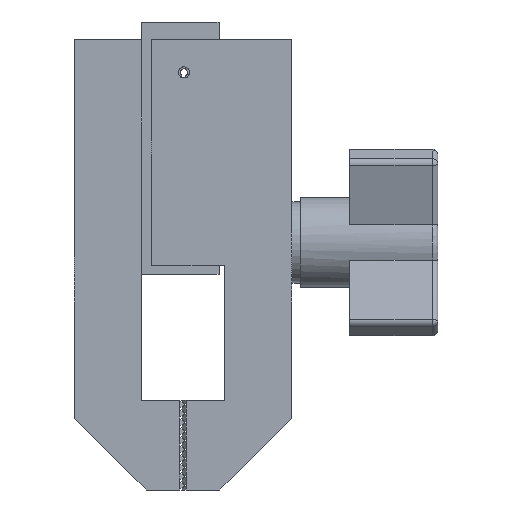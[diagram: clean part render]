
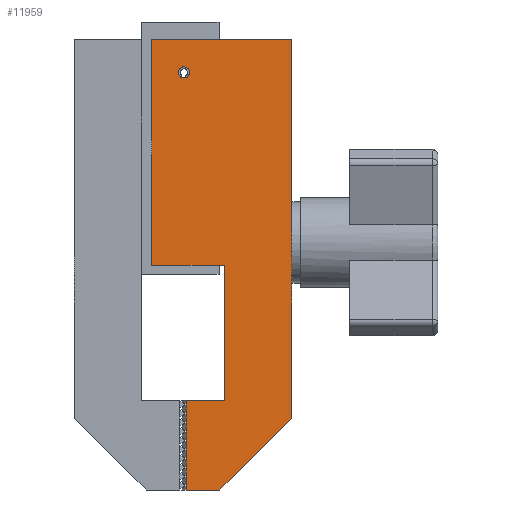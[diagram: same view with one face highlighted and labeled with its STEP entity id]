
A CAD part, left-side view. The second image highlights one B-rep face of the part: STEP entity #11959.
In plain terms, the highlighted planar face has unit normal (-1, 0, 0).
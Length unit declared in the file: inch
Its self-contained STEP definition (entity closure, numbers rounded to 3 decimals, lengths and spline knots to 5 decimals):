
#4176=CARTESIAN_POINT('',(28.80032,-8.46708,-16.358));
#4177=VERTEX_POINT('',#4176);
#4194=CARTESIAN_POINT('',(28.80032,-8.46708,-14.258));
#4195=VERTEX_POINT('',#4194);
#4202=CARTESIAN_POINT('',(28.80032,-8.46708,-14.258));
#4203=DIRECTION('',(0.0,0.0,-1.0));
#4204=VECTOR('',#4203,2.1);
#4205=LINE('',#4202,#4204);
#4206=EDGE_CURVE('',#4195,#4177,#4205,.T.);
#10777=CARTESIAN_POINT('',(28.80032,-7.87458,-14.46808));
#10778=VERTEX_POINT('',#10777);
#10786=CARTESIAN_POINT('',(28.80032,-7.85458,-14.46637));
#10787=VERTEX_POINT('',#10786);
#10794=CARTESIAN_POINT('',(28.80032,-7.86708,-14.438));
#10795=DIRECTION('',(1.0,0.0,0.0));
#10796=DIRECTION('',(0.0,0.0,-1.0));
#10797=AXIS2_PLACEMENT_3D('',#10794,#10795,#10796);
#10798=CIRCLE('',#10797,0.031);
#10799=EDGE_CURVE('',#10778,#10787,#10798,.T.);
#10831=CARTESIAN_POINT('',(28.80032,-7.87908,-16.258));
#10832=VERTEX_POINT('',#10831);
#10839=CARTESIAN_POINT('',(28.80032,-7.87908,-16.283));
#10840=VERTEX_POINT('',#10839);
#10847=CARTESIAN_POINT('',(28.80032,-7.87908,-16.258));
#10848=DIRECTION('',(0.0,0.0,-1.0));
#10849=VECTOR('',#10848,0.025);
#10850=LINE('',#10847,#10849);
#10851=EDGE_CURVE('',#10832,#10840,#10850,.T.);
#10861=CARTESIAN_POINT('',(28.80032,-7.87908,-16.333));
#10862=VERTEX_POINT('',#10861);
#10871=CARTESIAN_POINT('',(28.80032,-7.87908,-16.283));
#10872=DIRECTION('',(0.0,0.0,-1.0));
#10873=VECTOR('',#10872,0.05);
#10874=LINE('',#10871,#10873);
#10875=EDGE_CURVE('',#10840,#10862,#10874,.T.);
#10891=CARTESIAN_POINT('',(28.80032,-7.87908,-16.383));
#10892=VERTEX_POINT('',#10891);
#10901=CARTESIAN_POINT('',(28.80032,-7.87908,-16.333));
#10902=DIRECTION('',(0.0,0.0,-1.0));
#10903=VECTOR('',#10902,0.05);
#10904=LINE('',#10901,#10903);
#10905=EDGE_CURVE('',#10862,#10892,#10904,.T.);
#10921=CARTESIAN_POINT('',(28.80032,-7.87908,-16.433));
#10922=VERTEX_POINT('',#10921);
#10931=CARTESIAN_POINT('',(28.80032,-7.87908,-16.383));
#10932=DIRECTION('',(0.0,0.0,-1.0));
#10933=VECTOR('',#10932,0.05);
#10934=LINE('',#10931,#10933);
#10935=EDGE_CURVE('',#10892,#10922,#10934,.T.);
#10951=CARTESIAN_POINT('',(28.80032,-7.87908,-16.483));
#10952=VERTEX_POINT('',#10951);
#10961=CARTESIAN_POINT('',(28.80032,-7.87908,-16.433));
#10962=DIRECTION('',(0.0,0.0,-1.0));
#10963=VECTOR('',#10962,0.05);
#10964=LINE('',#10961,#10963);
#10965=EDGE_CURVE('',#10922,#10952,#10964,.T.);
#10981=CARTESIAN_POINT('',(28.80032,-7.87908,-16.533));
#10982=VERTEX_POINT('',#10981);
#10991=CARTESIAN_POINT('',(28.80032,-7.87908,-16.483));
#10992=DIRECTION('',(0.0,0.0,-1.0));
#10993=VECTOR('',#10992,0.05);
#10994=LINE('',#10991,#10993);
#10995=EDGE_CURVE('',#10952,#10982,#10994,.T.);
#11011=CARTESIAN_POINT('',(28.80032,-7.87908,-16.583));
#11012=VERTEX_POINT('',#11011);
#11021=CARTESIAN_POINT('',(28.80032,-7.87908,-16.533));
#11022=DIRECTION('',(0.0,0.0,-1.0));
#11023=VECTOR('',#11022,0.05);
#11024=LINE('',#11021,#11023);
#11025=EDGE_CURVE('',#10982,#11012,#11024,.T.);
#11041=CARTESIAN_POINT('',(28.80032,-7.87908,-16.633));
#11042=VERTEX_POINT('',#11041);
#11051=CARTESIAN_POINT('',(28.80032,-7.87908,-16.583));
#11052=DIRECTION('',(0.0,0.0,-1.0));
#11053=VECTOR('',#11052,0.05);
#11054=LINE('',#11051,#11053);
#11055=EDGE_CURVE('',#11012,#11042,#11054,.T.);
#11071=CARTESIAN_POINT('',(28.80032,-7.87908,-16.683));
#11072=VERTEX_POINT('',#11071);
#11081=CARTESIAN_POINT('',(28.80032,-7.87908,-16.633));
#11082=DIRECTION('',(0.0,0.0,-1.0));
#11083=VECTOR('',#11082,0.05);
#11084=LINE('',#11081,#11083);
#11085=EDGE_CURVE('',#11042,#11072,#11084,.T.);
#11101=CARTESIAN_POINT('',(28.80032,-7.87908,-16.733));
#11102=VERTEX_POINT('',#11101);
#11111=CARTESIAN_POINT('',(28.80032,-7.87908,-16.683));
#11112=DIRECTION('',(0.0,0.0,-1.0));
#11113=VECTOR('',#11112,0.05);
#11114=LINE('',#11111,#11113);
#11115=EDGE_CURVE('',#11072,#11102,#11114,.T.);
#11139=CARTESIAN_POINT('',(28.80032,-7.87908,-16.758));
#11140=VERTEX_POINT('',#11139);
#11147=CARTESIAN_POINT('',(28.80032,-7.87908,-16.733));
#11148=DIRECTION('',(0.0,0.0,-1.0));
#11149=VECTOR('',#11148,0.025);
#11150=LINE('',#11147,#11149);
#11151=EDGE_CURVE('',#11102,#11140,#11150,.T.);
#11761=CARTESIAN_POINT('',(28.80032,-8.06708,-16.758));
#11762=VERTEX_POINT('',#11761);
#11763=CARTESIAN_POINT('',(28.80032,-8.06708,-16.758));
#11764=DIRECTION('',(0.0,-0.707,0.707));
#11765=VECTOR('',#11764,0.56569);
#11766=LINE('',#11763,#11765);
#11767=EDGE_CURVE('',#11762,#4177,#11766,.T.);
#11788=CARTESIAN_POINT('',(28.80032,-8.06708,-16.758));
#11789=DIRECTION('',(0.0,1.0,0.0));
#11790=VECTOR('',#11789,0.188);
#11791=LINE('',#11788,#11790);
#11792=EDGE_CURVE('',#11762,#11140,#11791,.T.);
#11803=CARTESIAN_POINT('',(28.80032,-8.09208,-16.258));
#11804=VERTEX_POINT('',#11803);
#11805=CARTESIAN_POINT('',(28.80032,-8.09208,-16.258));
#11806=DIRECTION('',(0.0,1.0,0.0));
#11807=VECTOR('',#11806,0.213);
#11808=LINE('',#11805,#11807);
#11809=EDGE_CURVE('',#11804,#10832,#11808,.T.);
#11838=CARTESIAN_POINT('',(28.80032,-8.09208,-15.508));
#11839=VERTEX_POINT('',#11838);
#11840=CARTESIAN_POINT('',(28.80032,-8.09208,-15.508));
#11841=DIRECTION('',(0.0,0.0,-1.0));
#11842=VECTOR('',#11841,0.75);
#11843=LINE('',#11840,#11842);
#11844=EDGE_CURVE('',#11839,#11804,#11843,.T.);
#11888=CARTESIAN_POINT('',(28.80032,-7.88958,-14.883));
#11889=DIRECTION('',(1.0,0.0,0.0));
#11890=DIRECTION('',(0.0,0.0,1.0));
#11891=AXIS2_PLACEMENT_3D('',#11888,#11889,#11890);
#11892=PLANE('',#11891);
#11893=CARTESIAN_POINT('',(28.80032,-7.68708,-14.258));
#11894=VERTEX_POINT('',#11893);
#11895=CARTESIAN_POINT('',(28.80032,-8.46708,-14.258));
#11896=DIRECTION('',(0.0,1.0,0.0));
#11897=VECTOR('',#11896,0.78);
#11898=LINE('',#11895,#11897);
#11899=EDGE_CURVE('',#4195,#11894,#11898,.T.);
#11900=ORIENTED_EDGE('',*,*,#11899,.T.);
#11901=CARTESIAN_POINT('',(28.80032,-7.68708,-15.508));
#11902=VERTEX_POINT('',#11901);
#11903=CARTESIAN_POINT('',(28.80032,-7.68708,-14.258));
#11904=DIRECTION('',(0.0,0.0,-1.0));
#11905=VECTOR('',#11904,1.25);
#11906=LINE('',#11903,#11905);
#11907=EDGE_CURVE('',#11894,#11902,#11906,.T.);
#11908=ORIENTED_EDGE('',*,*,#11907,.T.);
#11909=CARTESIAN_POINT('',(28.80032,-7.68708,-15.508));
#11910=DIRECTION('',(0.0,-1.0,0.0));
#11911=VECTOR('',#11910,0.405);
#11912=LINE('',#11909,#11911);
#11913=EDGE_CURVE('',#11902,#11839,#11912,.T.);
#11914=ORIENTED_EDGE('',*,*,#11913,.T.);
#11915=ORIENTED_EDGE('',*,*,#11844,.T.);
#11916=ORIENTED_EDGE('',*,*,#11809,.T.);
#11917=ORIENTED_EDGE('',*,*,#10851,.T.);
#11918=ORIENTED_EDGE('',*,*,#10875,.T.);
#11919=ORIENTED_EDGE('',*,*,#10905,.T.);
#11920=ORIENTED_EDGE('',*,*,#10935,.T.);
#11921=ORIENTED_EDGE('',*,*,#10965,.T.);
#11922=ORIENTED_EDGE('',*,*,#10995,.T.);
#11923=ORIENTED_EDGE('',*,*,#11025,.T.);
#11924=ORIENTED_EDGE('',*,*,#11055,.T.);
#11925=ORIENTED_EDGE('',*,*,#11085,.T.);
#11926=ORIENTED_EDGE('',*,*,#11115,.T.);
#11927=ORIENTED_EDGE('',*,*,#11151,.T.);
#11928=ORIENTED_EDGE('',*,*,#11792,.F.);
#11929=ORIENTED_EDGE('',*,*,#11767,.T.);
#11930=ORIENTED_EDGE('',*,*,#4206,.F.);
#11931=EDGE_LOOP('',(#11900,#11908,#11914,#11915,#11916,#11917,#11918,#11919,#11920,#11921,#11922,#11923,#11924,#11925,#11926,#11927,#11928,#11929,#11930));
#11932=FACE_OUTER_BOUND('',#11931,.T.);
#11933=CARTESIAN_POINT('',(28.80032,-7.87458,-14.46834));
#11934=VERTEX_POINT('',#11933);
#11935=CARTESIAN_POINT('',(28.80032,-7.87458,-14.46808));
#11936=DIRECTION('',(0.0,0.0,-1.0));
#11937=VECTOR('',#11936,0.00026);
#11938=LINE('',#11935,#11937);
#11939=EDGE_CURVE('',#10778,#11934,#11938,.T.);
#11940=ORIENTED_EDGE('',*,*,#11939,.F.);
#11941=ORIENTED_EDGE('',*,*,#10799,.T.);
#11942=CARTESIAN_POINT('',(28.80032,-7.85458,-14.46664));
#11943=VERTEX_POINT('',#11942);
#11944=CARTESIAN_POINT('',(28.80032,-7.85458,-14.46664));
#11945=DIRECTION('',(0.0,0.0,1.0));
#11946=VECTOR('',#11945,0.00027);
#11947=LINE('',#11944,#11946);
#11948=EDGE_CURVE('',#11943,#10787,#11947,.T.);
#11949=ORIENTED_EDGE('',*,*,#11948,.F.);
#11950=CARTESIAN_POINT('',(28.80032,-7.86708,-14.438));
#11951=DIRECTION('',(-1.0,0.0,0.0));
#11952=DIRECTION('',(0.0,0.0,-1.0));
#11953=AXIS2_PLACEMENT_3D('',#11950,#11951,#11952);
#11954=CIRCLE('',#11953,0.03125);
#11955=EDGE_CURVE('',#11934,#11943,#11954,.T.);
#11956=ORIENTED_EDGE('',*,*,#11955,.F.);
#11957=EDGE_LOOP('',(#11940,#11941,#11949,#11956));
#11958=FACE_BOUND('',#11957,.T.);
#11959=ADVANCED_FACE('',(#11932,#11958),#11892,.F.);
